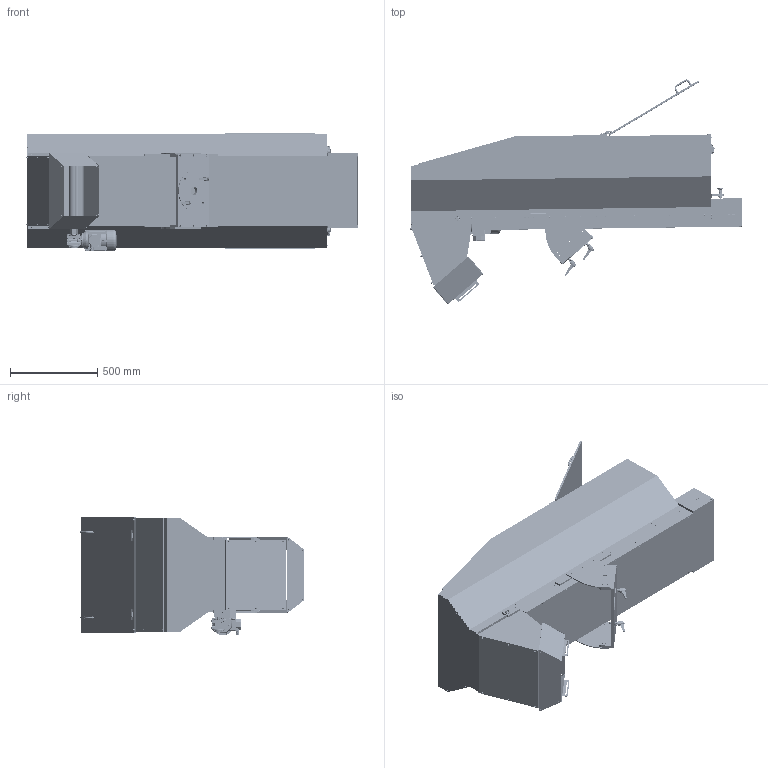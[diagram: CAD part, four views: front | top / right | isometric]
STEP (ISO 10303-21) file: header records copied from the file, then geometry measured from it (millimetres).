
FILE_DESCRIPTION (( 'STEP AP214' ), '1' );
FILE_NAME ('GM001463.00.step', '2024-09-25T08:39:14', ( '' ), ( '' ), 'SwSTEP 2.0', 'SolidWorks 2023', '' );
FILE_SCHEMA (( 'AUTOMOTIVE_DESIGN' ));
Length unit declared in the file: millimetre
Products named in the file (6): GM001463.00; Copia di Copia di Supporto 150l^CM001896_Default<A macchina>; PD001824; PD001825; CM001896; Copia di CM001896^CM001896_Default<A macchina>
Assembly tree (7 placements, depth 3):
  GM001463.00
    CM001896
      Copia di CM001896^CM001896_Default<A macchina>
      Copia di Copia di Supporto 150l^CM001896_Default<A macchina>
    PD001825  x2
    PD001824  x2
Bounding box: 1905.38 x 1290.75 x 682.9 mm (x, y, z)
Volume: 35358132.6 mm3; surface area: 20189059.7 mm2
Topology: 257 solids, 270 shells, 8131 faces, 20962 edges, 13531 vertices
Faces by surface type: plane 3689, cylinder 3216, cone 906, torus 180, sphere 120, bspline 20
Entity records: 263333 total; most frequent: CARTESIAN_POINT 62221, DIRECTION 41536, ORIENTED_EDGE 41088, EDGE_CURVE 20546, AXIS2_PLACEMENT_3D 15382, VERTEX_POINT 13335, VECTOR 10772, LINE 10772
